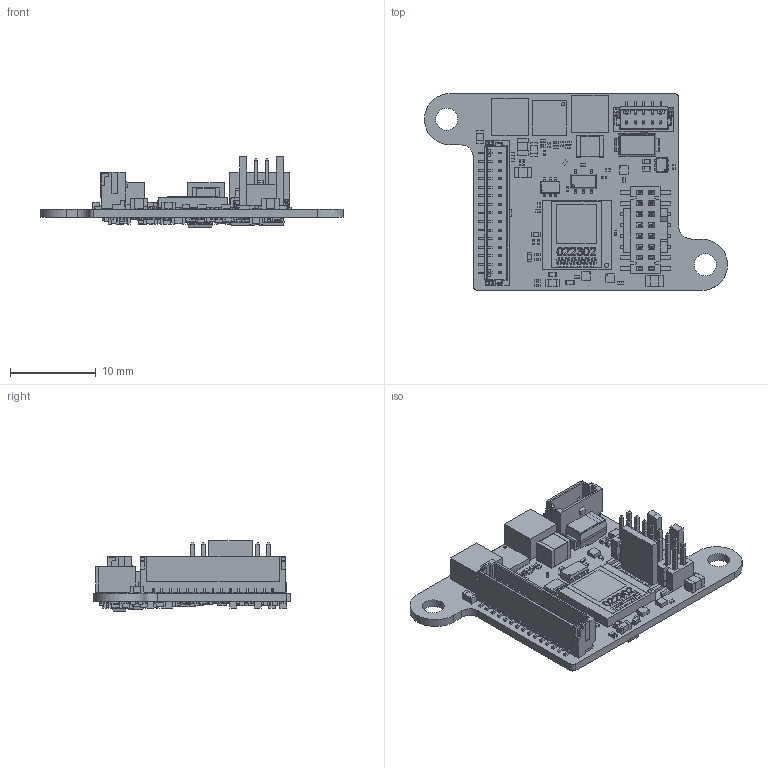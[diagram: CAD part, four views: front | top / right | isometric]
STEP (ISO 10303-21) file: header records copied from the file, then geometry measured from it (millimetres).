
FILE_DESCRIPTION(/* description */ ('VX1544A Serial POD'),/* implementation_level */ '2;1');
FILE_NAME(/* name */ 'C:\Users\TeamCenterSystem\Documents\Inventor\GRP_000305_CUST_iam.STP',/* time_stamp */ '2024-07-25T14:10:28+02:00',/* author */ ('vista'),/* organization */ (''),/* preprocessor_version */ 'ST-DEVELOPER v18.1',/* originating_system */ 'Autodesk Inventor 2022',/* authorisation */ '');
FILE_SCHEMA (('AUTOMOTIVE_DESIGN { 1 0 10303 214 3 1 1 }'));
Products named in the file (4): GRP_000305_CUST; GRP_000305; ASY_000215; LBL_000088
Assembly tree (3 placements, depth 3):
  GRP_000305_CUST
    GRP_000305
      ASY_000215
      LBL_000088
Bounding box: 35.4 x 23 x 8.23 mm (x, y, z)
Volume: 1184.5 mm3; surface area: 3867.8 mm2
Topology: 303 solids, 304 shells, 10390 faces, 26253 edges, 16826 vertices
Faces by surface type: plane 9499, cylinder 813, bspline 61, sphere 13, torus 4
Full cylindrical faces by diameter (mm): 0.125 x12, 0.15 x1, 0.2 x1, 0.25 x9, 0.262 x4, 0.3 x132, 0.39 x4, 0.4 x2, 0.5 x1, 1 x13, 2.6 x2
Entity records: 309048 total; most frequent: CARTESIAN_POINT 54497, ORIENTED_EDGE 52489, DIRECTION 48488, EDGE_CURVE 26245, LINE 24270, VECTOR 24270, VERTEX_POINT 16826, AXIS2_PLACEMENT_3D 12109
